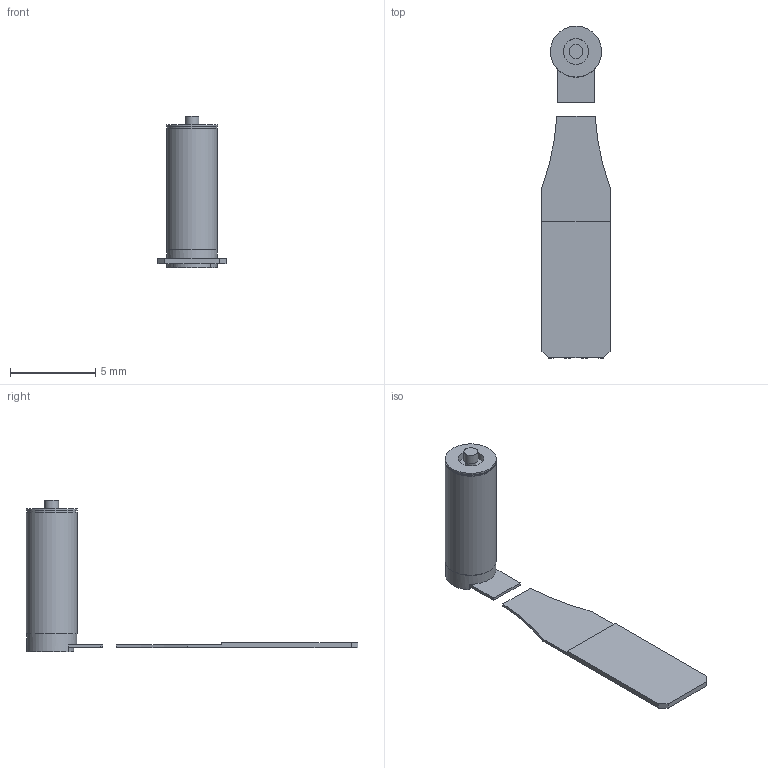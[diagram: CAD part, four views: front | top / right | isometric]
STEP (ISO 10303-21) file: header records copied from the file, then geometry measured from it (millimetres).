
FILE_DESCRIPTION(/* description */ (''),/* implementation_level */ '2;1');
FILE_NAME(/* name */ '0308A_B.stp',/* time_stamp */ '2017-07-13T15:28:09+02:00',/* author */ ('DR. FRITZ FAULHABER GmbH & Co. KG'),/* organization */ ('DR. FRITZ FAULHABER GmbH & Co. KG'),/* preprocessor_version */ 'ST-DEVELOPER v16',/* originating_system */ 'SIEMENS PLM Software NX 10.0',/* authorisation */ '');
FILE_SCHEMA (('AUTOMOTIVE_DESIGN { 1 0 10303 214 3 1 1 1 }'));
Length unit declared in the file: millimetre
Products named in the file (1): Alle_Motoren
Bounding box: 4 x 19.5 x 8.9 mm (x, y, z)
Volume: 72 mm3; surface area: 219.7 mm2
Topology: 2 solids, 2 shells, 66 faces, 162 edges, 108 vertices
Faces by surface type: plane 47, cylinder 12, extrusion 7
Full cylindrical faces by diameter (mm): 0.6 x1, 0.815 x1, 1.5 x1, 2.9 x1, 2.95 x1, 3 x2
Entity records: 2075 total; most frequent: CARTESIAN_POINT 561, ORIENTED_EDGE 304, DIRECTION 274, EDGE_CURVE 152, VERTEX_POINT 105, VECTOR 104, LINE 97, AXIS2_PLACEMENT_3D 85
